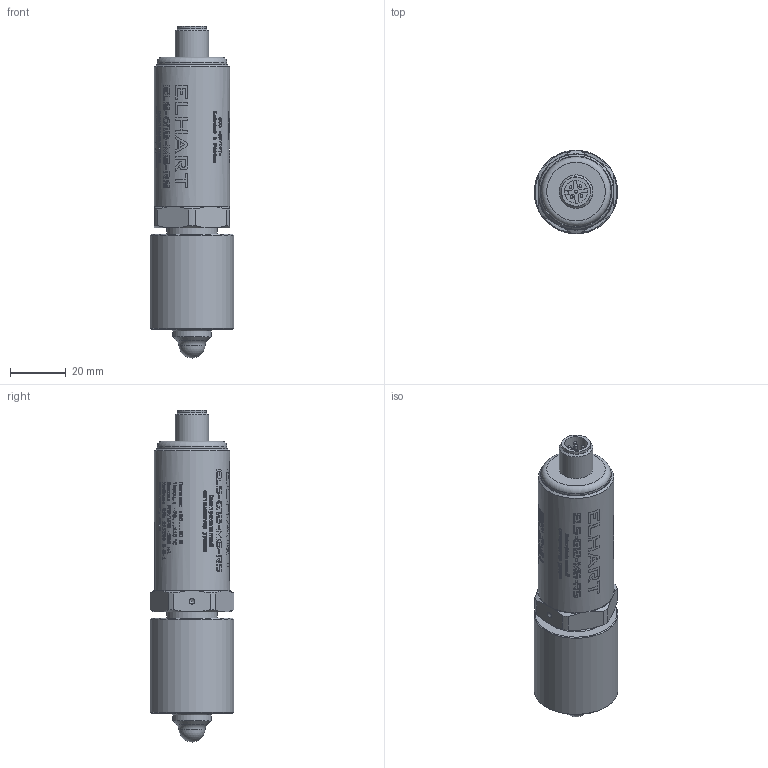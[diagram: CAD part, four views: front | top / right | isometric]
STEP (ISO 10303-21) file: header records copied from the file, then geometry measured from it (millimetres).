
FILE_DESCRIPTION(('STEP AP214'), '1');
FILE_NAME('ELS-G12-M5-RS_1', '', ('UNSPECIFIED'), ('UNSPECIFIED'), 'ASCON STEP Converter 1.6', 'ASCON Math Kernel', '');
FILE_SCHEMA(('AUTOMOTIVE_DESIGN { 1 0 10303 214 3 1 1}'));
Length unit declared in the file: millimetre
Bounding box: 29.9 x 29.99 x 119.1 mm (x, y, z)
Volume: 39924.2 mm3; surface area: 29009 mm2
Topology: 12 solids, 13 shells, 4673 faces, 12949 edges, 8617 vertices
Faces by surface type: bspline 3071, plane 1171, cylinder 361, cone 54, torus 9, sphere 7
Full cylindrical faces by diameter (mm): 0.7 x4, 0.9 x1, 1 x9, 1.2 x1, 2 x1, 8 x3, 8.3 x1, 8.5 x1, 9.4 x1, 9.5 x1, 9.55 x2, 10.4 x2, 10.6 x1, 10.917 x1, 12 x4, 12.5 x1, 14 x1, 15.2 x1, 16 x2, 17.8 x1, 18 x3, 18.8 x1, 19.8 x1, 20 x3, 20.376 x1, 20.5 x1, 20.955 x1, 22 x2, 23.3 x1, 23.4 x1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
Entity records: 279231 total; most frequent: CARTESIAN_POINT 149779, ORIENTED_EDGE 25646, EDGE_CURVE 12824, B_SPLINE_CURVE_WITH_KNOTS 9391, VERTEX_POINT 8608, DIRECTION 7397, EDGE_LOOP 5117, FACE_BOUND 4973
